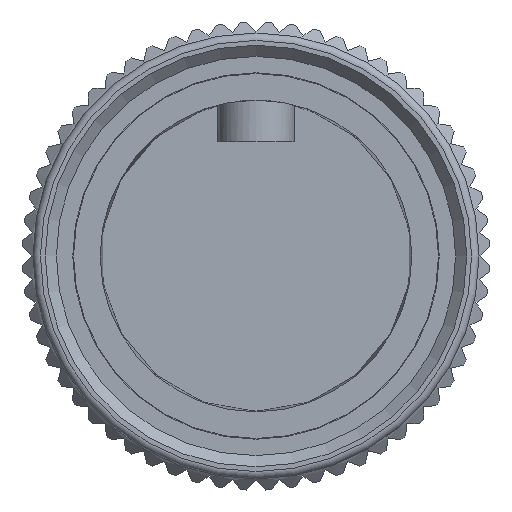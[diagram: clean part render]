
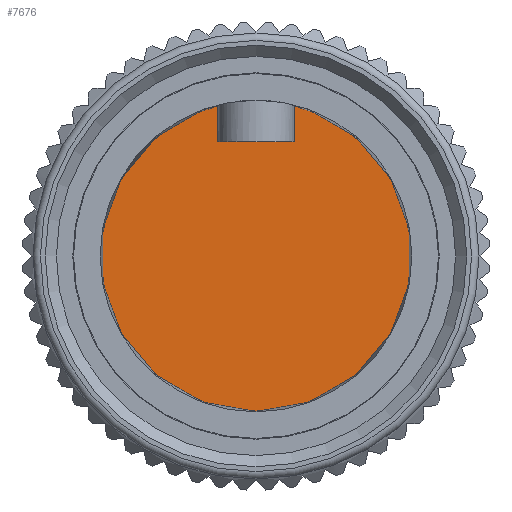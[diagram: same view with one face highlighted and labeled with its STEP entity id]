
A CAD part, front view. The second image highlights one B-rep face of the part: STEP entity #7676.
In plain terms, the highlighted planar face has unit normal (0, -1, 0).
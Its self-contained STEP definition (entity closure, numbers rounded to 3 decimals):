
#524=CIRCLE('',#8134,10.425);
#1206=FACE_OUTER_BOUND('',#1635,.T.);
#1635=EDGE_LOOP('',(#5297,#5298,#5299,#5300));
#2354=LINE('',#11212,#2768);
#2375=LINE('',#11420,#2789);
#2376=LINE('',#11422,#2790);
#2768=VECTOR('',#8978,10.);
#2789=VECTOR('',#9053,10.);
#2790=VECTOR('',#9056,10.);
#3196=VERTEX_POINT('',#11207);
#3197=VERTEX_POINT('',#11211);
#3223=VERTEX_POINT('',#11398);
#3225=VERTEX_POINT('',#11418);
#4001=EDGE_CURVE('',#3196,#3197,#2354,.T.);
#4040=EDGE_CURVE('',#3223,#3196,#524,.T.);
#4045=EDGE_CURVE('',#3225,#3223,#2375,.T.);
#4046=EDGE_CURVE('',#3197,#3225,#2376,.T.);
#5297=ORIENTED_EDGE('',*,*,#4001,.F.);
#5298=ORIENTED_EDGE('',*,*,#4040,.F.);
#5299=ORIENTED_EDGE('',*,*,#4045,.F.);
#5300=ORIENTED_EDGE('',*,*,#4046,.F.);
#7431=PLANE('',#8139);
#7676=ADVANCED_FACE('',(#1206),#7431,.F.);
#8134=AXIS2_PLACEMENT_3D('',#11402,#9043,#9044);
#8139=AXIS2_PLACEMENT_3D('',#11423,#9057,#9058);
#8978=DIRECTION('',(0.,0.,-1.));
#9043=DIRECTION('center_axis',(0.,1.,0.));
#9044=DIRECTION('ref_axis',(-0.559,0.,-0.829));
#9053=DIRECTION('',(0.,0.,1.));
#9056=DIRECTION('',(1.,0.,0.));
#9057=DIRECTION('center_axis',(0.,1.,0.));
#9058=DIRECTION('ref_axis',(0.,0.,1.));
#11207=CARTESIAN_POINT('',(-2.577,-25.468,10.096));
#11211=CARTESIAN_POINT('',(-2.577,-25.468,7.7));
#11212=CARTESIAN_POINT('',(-2.577,-25.468,9.634));
#11398=CARTESIAN_POINT('',(2.623,-25.468,10.096));
#11402=CARTESIAN_POINT('Origin',(0.023,-25.468,0.));
#11418=CARTESIAN_POINT('',(2.623,-25.468,7.7));
#11420=CARTESIAN_POINT('',(2.623,-25.468,9.634));
#11422=CARTESIAN_POINT('',(0.023,-25.468,7.7));
#11423=CARTESIAN_POINT('Origin',(0.023,-25.468,11.568));
